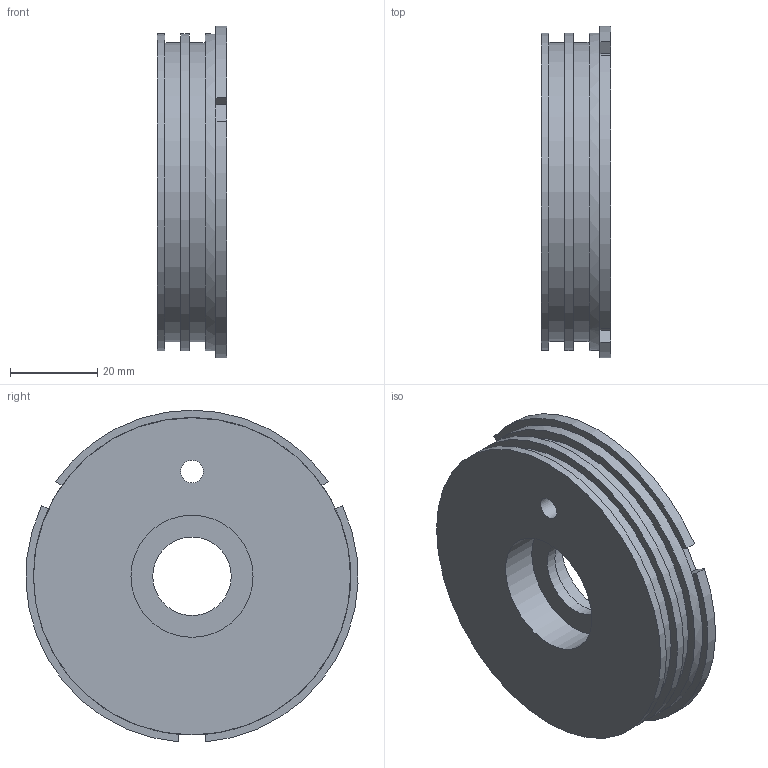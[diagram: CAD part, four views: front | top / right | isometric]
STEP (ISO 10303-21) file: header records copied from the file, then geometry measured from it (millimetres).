
FILE_DESCRIPTION(('Open CASCADE Model'),'2;1');
FILE_NAME('Open CASCADE Shape Model','2026-10-31T23:30:31',('Author'),( 'Open CASCADE'),'Open CASCADE STEP processor 7.9','Open CASCADE 7.9' ,'Unknown');
FILE_SCHEMA(('AUTOMOTIVE_DESIGN { 1 0 10303 214 1 1 1 1 }'));
Length unit declared in the file: millimetre
Products named in the file (1): Open CASCADE STEP translator 7.9 3
Bounding box: 16 x 76.13 x 76.07 mm (x, y, z)
Volume: 54612.6 mm3; surface area: 16057.8 mm2
Topology: 1 solids, 1 shells, 41 faces, 90 edges, 60 vertices
Faces by surface type: plane 26, cylinder 15
Full cylindrical faces by diameter (mm): 5.2 x1, 11 x1, 18 x1, 24 x1, 28 x2, 34 x1, 68.59 x2, 72.75 x3
Entity records: 2319 total; most frequent: CARTESIAN_POINT 516, DIRECTION 321, ORIENTED_EDGE 180, PCURVE 180, DEFINITIONAL_REPRESENTATION 180, LINE 144, VECTOR 144, EDGE_CURVE 90
